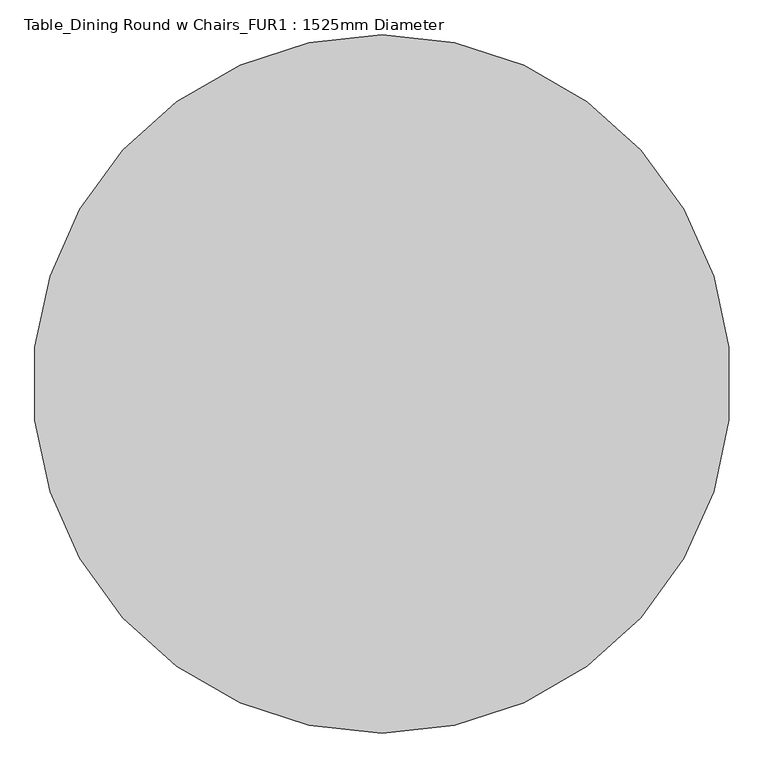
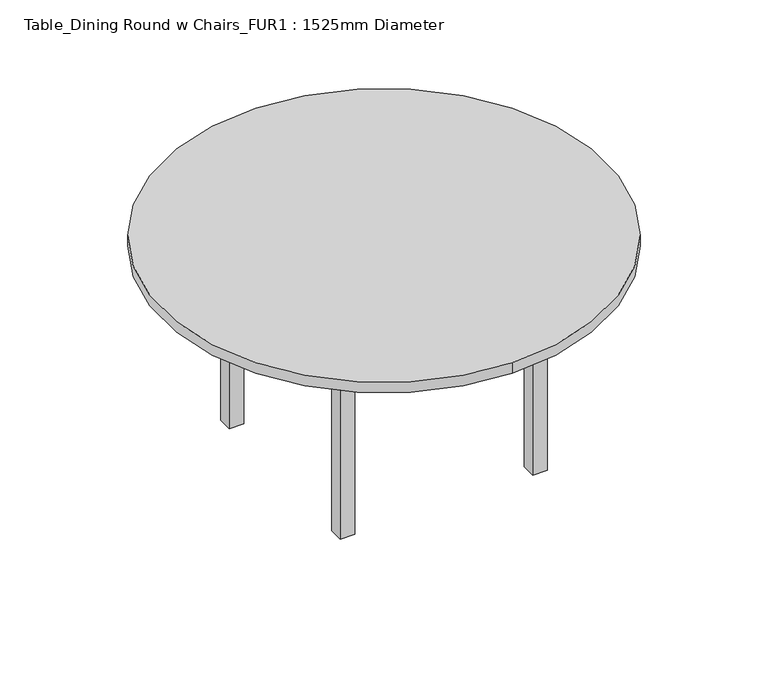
"""IFC4 building model written with IfcOpenShell, lengths in millimetres: furniture geometry, Table_Dining Round w Chairs_FUR1 : 1525mm Diameter."""

from ifc_helpers import new_model, si_unit, point, frame, frame_2d, origin, origin_with_axes, place, context, project, spatial, polyline, circle_curve, trimmed, segment, composite_curve, outline, extrude, source, transform, mapped, element, save


def table_dining_round_w_chairs_fur1_1525mm_diameter_d4790072(model_context):
    return source(origin(), model_context, "Body", "SweptSolid", [
        extrude(outline(polyline([(-201.3680328, 170.9713115), (-201.3680328, 120.1713115), (-252.1680328, 120.1713115), (-252.1680328, 170.9713115), (-201.3680328, 170.9713115)])), origin_with_axes(), (0.0, 0.0, 1.0), 647.7),
        extrude(outline(polyline([(408.7319672, 170.9713115), (459.5319672, 170.9713115), (459.5319672, 120.1713115), (408.7319672, 120.1713115), (408.7319672, 170.9713115)])), origin_with_axes(), (0.0, 0.0, 1.0), 647.7),
        extrude(outline(polyline([(408.7319672, -540.7286885), (408.7319672, -489.9286885), (459.5319672, -489.9286885), (459.5319672, -540.7286885), (408.7319672, -540.7286885)])), origin_with_axes(), (0.0, 0.0, 1.0), 647.7),
        extrude(outline(polyline([(-201.3680328, -540.7286885), (-252.1680328, -540.7286885), (-252.1680328, -489.9286885), (-201.3680328, -489.9286885), (-201.3680328, -540.7286885)])), origin_with_axes(), (0.0, 0.0, 1.0), 647.7),
        extrude(outline(polyline([(484.9319672, 196.3713115), (484.9319672, -566.1286885), (-277.5680328, -566.1286885), (-277.5680328, 196.3713115), (484.9319672, 196.3713115)]), holes=[polyline([(459.5319672, 170.9713115), (-252.1680328, 170.9713115), (-252.1680328, -540.7286885), (459.5319672, -540.7286885), (459.5319672, 170.9713115)])]), frame((0.0, 0.0, 647.7), z_axis=(0.0, 0.0, 1.0), x_axis=(1.0, 0.0, 0.0)), (0.0, 0.0, 1.0), 76.2),
        extrude(outline(composite_curve([segment(trimmed(circle_curve(frame_2d((103.6819672, -184.8786885)), 762.5), [point((103.6819672, -947.3786885))], [point((103.6819672, 577.6213115))], False, "CARTESIAN"), True, "CONTINUOUS"), segment(trimmed(circle_curve(frame_2d((103.6819672, -184.8786885)), 762.5), [point((103.6819672, 577.6213115))], [point((103.6819672, -947.3786885))], False, "CARTESIAN"), True, "CONTINUOUS")], self_intersect=False)), frame((0.0, 0.0, 723.9), z_axis=(0.0, 0.0, 1.0), x_axis=(1.0, 0.0, 0.0)), (0.0, 0.0, 1.0), 38.1),
    ])


if __name__ == "__main__":
    model = new_model("IFC4")
    model_context = context("Model", 3, world=origin())
    ifc_project = project(units=[si_unit("LENGTHUNIT", "METRE", prefix="MILLI")], contexts=[model_context])
    site = spatial("IfcSite", under=ifc_project)
    building = spatial("IfcBuilding", under=site)
    placement = place(None, origin())
    table_dining_round_w_chairs_fur1_1525mm_diameter_shape = table_dining_round_w_chairs_fur1_1525mm_diameter_d4790072(model_context)
    element("IfcFurniture", 1, ObjectType="Table_Dining Round w Chairs_FUR1 : 1525mm Diameter", at=placement, inside=building, context=model_context, shape_type="MappedRepresentation", body=[
        mapped(table_dining_round_w_chairs_fur1_1525mm_diameter_shape, transform((0.0, 0.0, 0.0), x_axis=(1.0, 0.0, 0.0), y_axis=(0.0, 1.0, 0.0), z_axis=(0.0, 0.0, 1.0))),
    ])
    save(model, "model.ifc")
